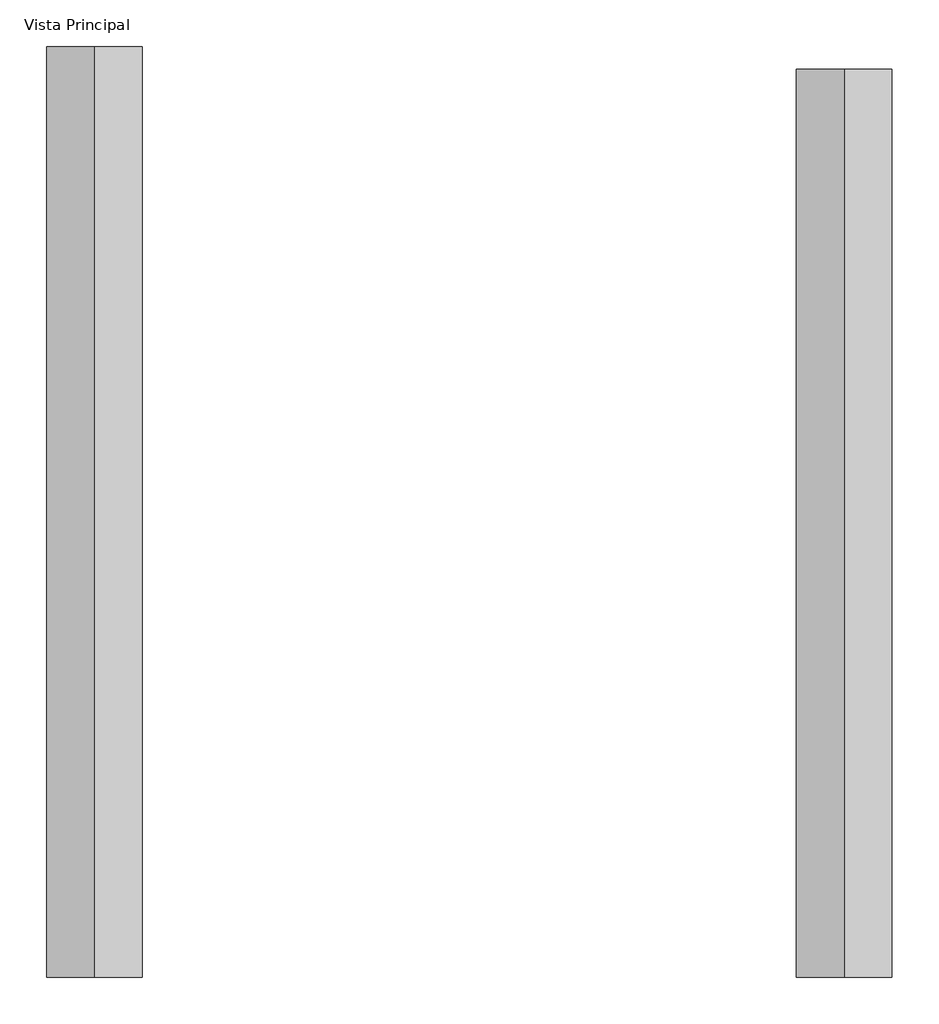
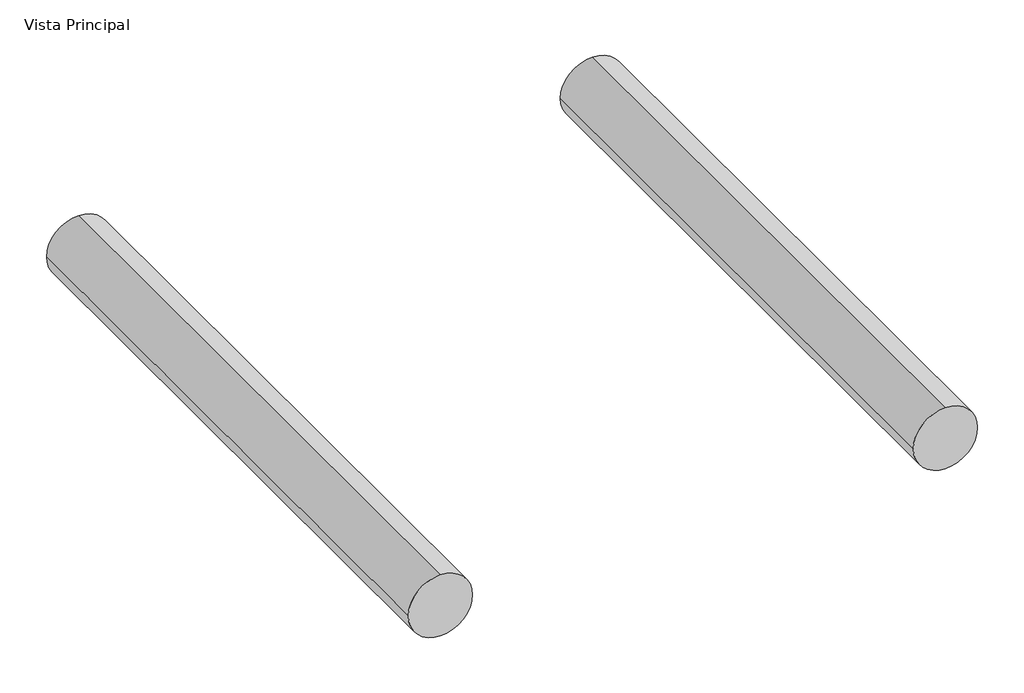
# One storey, incomplete: 2 pipe segments.
"""IFC4 building model written with IfcOpenShell, lengths in millimetres."""

from ifc_helpers import new_model, si_unit, point, frame, frame_2d, origin, place, context, project, spatial, circle_curve, trimmed, segment, composite_curve, outline, extrude, element, save

model = new_model("IFC4")

# Units and contexts
model_context = context("Model", 3, world=origin())
ifc_project = project(units=[si_unit("LENGTHUNIT", "METRE", prefix="MILLI")], contexts=[model_context])

# Site, building, storey
site = spatial("IfcSite", under=ifc_project)
building = spatial("IfcBuilding", under=site)
storey = spatial("IfcBuildingStorey", under=building, Name="Vista Principal", Elevation=0.0)

# Pipe segments
placement = place(None, origin())
element("IfcPipeSegment", 1, ObjectType="AmancoWavin_Tuberías_DWVCédula40 1 1/4\" - 12\" (6 mts)", at=placement, inside=storey, context=model_context, shape_type="SweptSolid", body=[
    extrude(outline(composite_curve([segment(trimmed(circle_curve(frame_2d((0.0, 585.8609132)), 84.15), [point((0.0, 501.7109132))], [point((-84.15, 585.8609132))], False, "CARTESIAN"), True, "CONTINUOUS"), segment(trimmed(circle_curve(frame_2d((0.0, 585.8609132)), 84.15), [point((-84.15, 585.8609132))], [point((0.0, 670.0109132))], False, "CARTESIAN"), True, "CONTINUOUS"), segment(trimmed(circle_curve(frame_2d((0.0, 585.8609132)), 84.15), [point((0.0, 670.0109132))], [point((84.15, 585.8609132))], False, "CARTESIAN"), True, "CONTINUOUS"), segment(trimmed(circle_curve(frame_2d((0.0, 585.8609132)), 84.15), [point((84.15, 585.8609132))], [point((0.0, 501.7109132))], False, "CARTESIAN"), True, "CONTINUOUS")], self_intersect=False)), frame((0.0, -123.0489261, 0.0), z_axis=(0.0, 1.0, 0.0), x_axis=(0.0, 0.0, 1.0)), (0.0, 0.0, 1.0), 1640.0),
])
element("IfcPipeSegment", 2, ObjectType="AmancoWavin_Tuberías_DWV 4\" - 12\" (6 mts)", at=placement, inside=storey, context=model_context, shape_type="SweptSolid", body=[
    extrude(outline(composite_curve([segment(trimmed(circle_curve(frame_2d((0.0, 1907.8652376)), 84.15), [point((0.0, 1823.7152376))], [point((-84.15, 1907.8652376))], False, "CARTESIAN"), True, "CONTINUOUS"), segment(trimmed(circle_curve(frame_2d((0.0, 1907.8652376)), 84.15), [point((-84.15, 1907.8652376))], [point((0.0, 1992.0152376))], False, "CARTESIAN"), True, "CONTINUOUS"), segment(trimmed(circle_curve(frame_2d((0.0, 1907.8652376)), 84.15), [point((0.0, 1992.0152376))], [point((84.15, 1907.8652376))], False, "CARTESIAN"), True, "CONTINUOUS"), segment(trimmed(circle_curve(frame_2d((0.0, 1907.8652376)), 84.15), [point((84.15, 1907.8652376))], [point((0.0, 1823.7152376))], False, "CARTESIAN"), True, "CONTINUOUS")], self_intersect=False)), frame((0.0, -123.0489261, 0.0), z_axis=(0.0, 1.0, 0.0), x_axis=(0.0, 0.0, 1.0)), (0.0, 0.0, 1.0), 1600.0),
])

save(model, "model.ifc")
